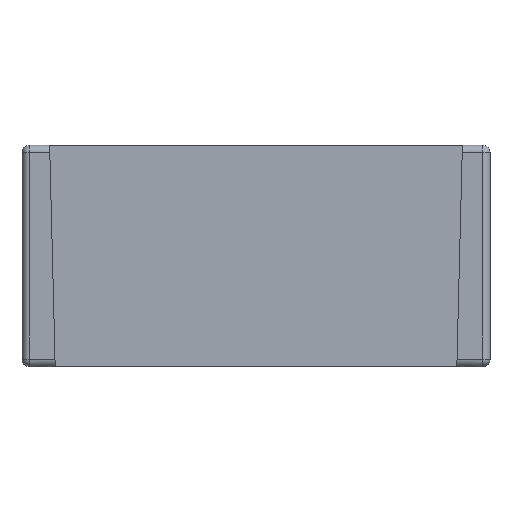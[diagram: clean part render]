
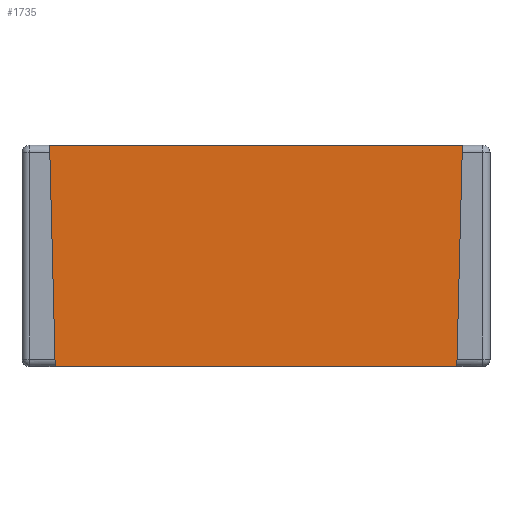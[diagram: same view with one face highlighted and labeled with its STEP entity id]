
A CAD part, top view. The second image highlights one B-rep face of the part: STEP entity #1735.
In plain terms, the highlighted planar face has unit normal (0, 0, 1).
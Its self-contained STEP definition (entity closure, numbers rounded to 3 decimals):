
#165=DIRECTION('',(0.,1.,0.));
#166=VECTOR('',#165,52.);
#167=CARTESIAN_POINT('',(124.,-56.,5.4));
#168=LINE('',#167,#166);
#177=CARTESIAN_POINT('',(4.,-56.,5.4));
#178=DIRECTION('',(0.,0.,1.));
#179=DIRECTION('',(-1.,0.,0.));
#180=AXIS2_PLACEMENT_3D('',#177,#178,#179);
#182=CARTESIAN_POINT('',(4.,-4.,5.4));
#183=DIRECTION('',(0.,0.,1.));
#184=DIRECTION('',(0.,1.,0.));
#185=AXIS2_PLACEMENT_3D('',#182,#183,#184);
#187=DIRECTION('',(-1.,0.,0.));
#188=VECTOR('',#187,112.);
#189=CARTESIAN_POINT('',(119.5,0.,5.4));
#190=LINE('',#189,#188);
#191=CARTESIAN_POINT('',(123.,-4.,5.4));
#192=DIRECTION('',(0.,0.,1.));
#193=DIRECTION('',(1.,0.,0.));
#194=AXIS2_PLACEMENT_3D('',#191,#192,#193);
#196=CARTESIAN_POINT('',(123.,-56.,5.4));
#197=DIRECTION('',(0.,0.,1.));
#198=DIRECTION('',(0.,-1.,0.));
#199=AXIS2_PLACEMENT_3D('',#196,#197,#198);
#201=DIRECTION('',(1.,0.,0.));
#202=VECTOR('',#201,109.);
#203=CARTESIAN_POINT('',(9.,-60.,5.4));
#204=LINE('',#203,#202);
#209=DIRECTION('',(1.,0.,0.));
#210=VECTOR('',#209,4.925);
#211=CARTESIAN_POINT('',(4.,-57.,5.4));
#212=LINE('',#211,#210);
#229=DIRECTION('',(1.,0.,0.));
#230=VECTOR('',#229,4.925);
#231=CARTESIAN_POINT('',(118.075,-57.,5.4));
#232=LINE('',#231,#230);
#237=DIRECTION('',(0.025,-1.,0.));
#238=VECTOR('',#237,3.001);
#239=CARTESIAN_POINT('',(8.925,-57.,5.4));
#240=LINE('',#239,#238);
#257=DIRECTION('',(0.025,-1.,0.));
#258=VECTOR('',#257,3.001);
#259=CARTESIAN_POINT('',(7.5,0.,5.4));
#260=LINE('',#259,#258);
#269=DIRECTION('',(-1.,0.,0.));
#270=VECTOR('',#269,3.575);
#271=CARTESIAN_POINT('',(7.575,-3.,5.4));
#272=LINE('',#271,#270);
#285=DIRECTION('',(-1.,0.,0.));
#286=VECTOR('',#285,3.575);
#287=CARTESIAN_POINT('',(123.,-3.,5.4));
#288=LINE('',#287,#286);
#342=DIRECTION('',(0.,-1.,0.));
#343=VECTOR('',#342,52.);
#344=CARTESIAN_POINT('',(3.,-4.,5.4));
#345=LINE('',#344,#343);
#896=DIRECTION('',(0.025,1.,0.));
#897=VECTOR('',#896,3.001);
#898=CARTESIAN_POINT('',(119.425,-3.,5.4));
#899=LINE('',#898,#897);
#916=DIRECTION('',(0.025,1.,0.));
#917=VECTOR('',#916,3.001);
#918=CARTESIAN_POINT('',(118.,-60.,5.4));
#919=LINE('',#918,#917);
#1133=CARTESIAN_POINT('',(7.5,0.,5.4));
#1134=CARTESIAN_POINT('',(7.575,-3.,5.4));
#1135=VERTEX_POINT('',#1133);
#1136=VERTEX_POINT('',#1134);
#1137=CARTESIAN_POINT('',(8.925,-57.,5.4));
#1138=CARTESIAN_POINT('',(9.,-60.,5.4));
#1139=VERTEX_POINT('',#1137);
#1140=VERTEX_POINT('',#1138);
#1141=CARTESIAN_POINT('',(118.,-60.,5.4));
#1142=CARTESIAN_POINT('',(118.075,-57.,5.4));
#1143=VERTEX_POINT('',#1141);
#1144=VERTEX_POINT('',#1142);
#1145=CARTESIAN_POINT('',(119.425,-3.,5.4));
#1146=CARTESIAN_POINT('',(119.5,0.,5.4));
#1147=VERTEX_POINT('',#1145);
#1148=VERTEX_POINT('',#1146);
#1197=CARTESIAN_POINT('',(3.,-56.,5.4));
#1198=CARTESIAN_POINT('',(4.,-57.,5.4));
#1199=VERTEX_POINT('',#1197);
#1200=VERTEX_POINT('',#1198);
#1221=CARTESIAN_POINT('',(4.,-3.,5.4));
#1222=CARTESIAN_POINT('',(3.,-4.,5.4));
#1223=VERTEX_POINT('',#1221);
#1224=VERTEX_POINT('',#1222);
#1233=CARTESIAN_POINT('',(123.,-57.,5.4));
#1234=CARTESIAN_POINT('',(124.,-56.,5.4));
#1235=VERTEX_POINT('',#1233);
#1236=VERTEX_POINT('',#1234);
#1249=CARTESIAN_POINT('',(124.,-4.,5.4));
#1250=CARTESIAN_POINT('',(123.,-3.,5.4));
#1251=VERTEX_POINT('',#1249);
#1252=VERTEX_POINT('',#1250);
#1698=CARTESIAN_POINT('',(0.,0.,5.4));
#1699=DIRECTION('',(0.,0.,1.));
#1700=DIRECTION('',(1.,0.,0.));
#1701=AXIS2_PLACEMENT_3D('',#1698,#1699,#1700);
#1702=PLANE('',#1701);
#1704=ORIENTED_EDGE('',*,*,#1703,.F.);
#1706=ORIENTED_EDGE('',*,*,#1705,.F.);
#1708=ORIENTED_EDGE('',*,*,#1707,.F.);
#1710=ORIENTED_EDGE('',*,*,#1709,.F.);
#1712=ORIENTED_EDGE('',*,*,#1711,.F.);
#1714=ORIENTED_EDGE('',*,*,#1713,.F.);
#1716=ORIENTED_EDGE('',*,*,#1715,.F.);
#1718=ORIENTED_EDGE('',*,*,#1717,.F.);
#1720=ORIENTED_EDGE('',*,*,#1719,.F.);
#1721=ORIENTED_EDGE('',*,*,#1668,.F.);
#1722=ORIENTED_EDGE('',*,*,#1688,.F.);
#1724=ORIENTED_EDGE('',*,*,#1723,.F.);
#1726=ORIENTED_EDGE('',*,*,#1725,.F.);
#1728=ORIENTED_EDGE('',*,*,#1727,.F.);
#1730=ORIENTED_EDGE('',*,*,#1729,.F.);
#1732=ORIENTED_EDGE('',*,*,#1731,.F.);
#1733=EDGE_LOOP('',(#1704,#1706,#1708,#1710,#1712,#1714,#1716,#1718,#1720,#1721,
#1722,#1724,#1726,#1728,#1730,#1732));
#1734=FACE_OUTER_BOUND('',#1733,.F.);
#1735=ADVANCED_FACE('',(#1734),#1702,.T.);
#181=CIRCLE('',#180,1.);
#186=CIRCLE('',#185,1.);
#195=CIRCLE('',#194,1.);
#200=CIRCLE('',#199,1.);
#1668=EDGE_CURVE('',#1236,#1251,#168,.T.);
#1688=EDGE_CURVE('',#1235,#1236,#200,.T.);
#1703=EDGE_CURVE('',#1199,#1200,#181,.T.);
#1705=EDGE_CURVE('',#1224,#1199,#345,.T.);
#1707=EDGE_CURVE('',#1223,#1224,#186,.T.);
#1709=EDGE_CURVE('',#1136,#1223,#272,.T.);
#1711=EDGE_CURVE('',#1135,#1136,#260,.T.);
#1713=EDGE_CURVE('',#1148,#1135,#190,.T.);
#1715=EDGE_CURVE('',#1147,#1148,#899,.T.);
#1717=EDGE_CURVE('',#1252,#1147,#288,.T.);
#1719=EDGE_CURVE('',#1251,#1252,#195,.T.);
#1723=EDGE_CURVE('',#1144,#1235,#232,.T.);
#1725=EDGE_CURVE('',#1143,#1144,#919,.T.);
#1727=EDGE_CURVE('',#1140,#1143,#204,.T.);
#1729=EDGE_CURVE('',#1139,#1140,#240,.T.);
#1731=EDGE_CURVE('',#1200,#1139,#212,.T.);
